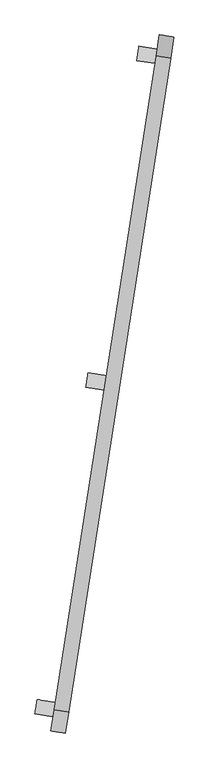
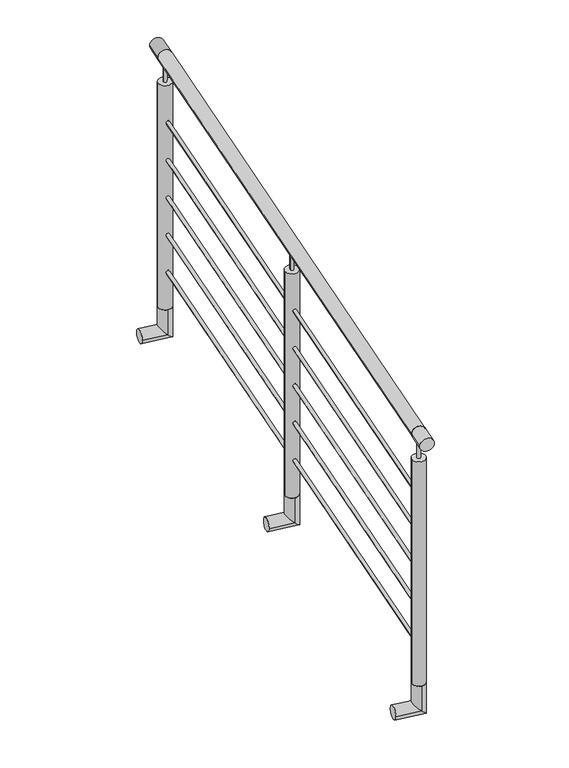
"""IFC4 building model written with IfcOpenShell, lengths in millimetres: railing geometry, Barandal acero inox - sobre ventana."""

from ifc_helpers import new_model, si_unit, point, frame, frame_2d, origin, origin_2d, place, context, project, spatial, circle_curve, ellipse_curve, trimmed, segment, composite_curve, outline, extrude, source, transform, mapped, element, save
from ifc_brep_helpers import plane_surface, cylinder_surface, advanced_brep


def railing_13f0ed30(model_context):
    return source(origin(), model_context, "Body", "SolidModel", [
        extrude(outline(composite_curve([segment(trimmed(circle_curve(origin_2d(), 25.4), [point((25.4, 0.0))], [point((-25.4, 0.0))], False, "CARTESIAN"), True, "CONTINUOUS"), segment(trimmed(circle_curve(origin_2d(), 25.4), [point((-25.4, 0.0))], [point((25.4, 0.0))], False, "CARTESIAN"), True, "CONTINUOUS")], self_intersect=False)), frame((-24983.9778211, -81062.9582667, 13800.0), z_axis=(0.1540098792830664, 0.9880693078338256, 0.0), x_axis=(0.9880693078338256, -0.1540098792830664, 0.0)), (0.0, 0.0, 1.0), 2310.0000422),
        extrude(outline(composite_curve([segment(trimmed(circle_curve(origin_2d(), 6.35), [point((6.35, 0.0))], [point((-6.35, 0.0))], False, "CARTESIAN"), True, "CONTINUOUS"), segment(trimmed(circle_curve(origin_2d(), 6.35), [point((-6.35, 0.0))], [point((6.35, 0.0))], False, "CARTESIAN"), True, "CONTINUOUS")], self_intersect=False)), frame((-24983.9778211, -81062.9582667, 13550.0), z_axis=(0.1540098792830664, 0.9880693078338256, 0.0), x_axis=(0.9880693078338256, -0.1540098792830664, 0.0)), (0.0, 0.0, 1.0), 2310.0000422),
        extrude(outline(composite_curve([segment(trimmed(circle_curve(origin_2d(), 6.35), [point((6.35, 0.0))], [point((-6.35, 0.0))], False, "CARTESIAN"), True, "CONTINUOUS"), segment(trimmed(circle_curve(origin_2d(), 6.35), [point((-6.35, 0.0))], [point((6.35, 0.0))], False, "CARTESIAN"), True, "CONTINUOUS")], self_intersect=False)), frame((-24983.9778211, -81062.9582667, 13400.0), z_axis=(0.1540098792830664, 0.9880693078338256, 0.0), x_axis=(0.9880693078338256, -0.1540098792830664, 0.0)), (0.0, 0.0, 1.0), 2310.0000422),
        extrude(outline(composite_curve([segment(trimmed(circle_curve(origin_2d(), 6.35), [point((6.35, 0.0))], [point((-6.35, 0.0))], False, "CARTESIAN"), True, "CONTINUOUS"), segment(trimmed(circle_curve(origin_2d(), 6.35), [point((-6.35, 0.0))], [point((6.35, 0.0))], False, "CARTESIAN"), True, "CONTINUOUS")], self_intersect=False)), frame((-24983.9778211, -81062.9582667, 13250.0), z_axis=(0.1540098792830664, 0.9880693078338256, 0.0), x_axis=(0.9880693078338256, -0.1540098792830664, 0.0)), (0.0, 0.0, 1.0), 2310.0000422),
        extrude(outline(composite_curve([segment(trimmed(circle_curve(origin_2d(), 6.35), [point((6.35, 0.0))], [point((-6.35, 0.0))], False, "CARTESIAN"), True, "CONTINUOUS"), segment(trimmed(circle_curve(origin_2d(), 6.35), [point((-6.35, 0.0))], [point((6.35, 0.0))], False, "CARTESIAN"), True, "CONTINUOUS")], self_intersect=False)), frame((-24983.9778211, -81062.9582667, 13100.0), z_axis=(0.1540098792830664, 0.9880693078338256, 0.0), x_axis=(0.9880693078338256, -0.1540098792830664, 0.0)), (0.0, 0.0, 1.0), 2310.0000422),
        extrude(outline(composite_curve([segment(trimmed(circle_curve(origin_2d(), 6.35), [point((6.35, 0.0))], [point((-6.35, 0.0))], False, "CARTESIAN"), True, "CONTINUOUS"), segment(trimmed(circle_curve(origin_2d(), 6.35), [point((-6.35, 0.0))], [point((6.35, 0.0))], False, "CARTESIAN"), True, "CONTINUOUS")], self_intersect=False)), frame((-24983.9778211, -81062.9582667, 12950.0), z_axis=(0.1540098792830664, 0.9880693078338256, 0.0), x_axis=(0.9880693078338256, -0.1540098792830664, 0.0)), (0.0, 0.0, 1.0), 2310.0000422),
        advanced_brep(
        [(-24810.0082582, -79946.8351557, 12800.0), (-24802.1845564, -79896.6412348, 12800.0), (-24802.1845564, -79896.6412348, 12700.0), (-24810.0082582, -79946.8351557, 12700.0), (-24898.9344959, -79932.9742665, 12700.0), (-24891.1107941, -79882.7803457, 12700.0)],
        [
            (0, 1, circle_curve(frame((-24806.0964073, -79921.7381953, 12800.0), z_axis=(0.0, 0.0, 1.0), x_axis=(0.1540098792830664, 0.9880693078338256, 0.0)), 25.4)),
            (1, 0, circle_curve(frame((-24806.0964073, -79921.7381953, 12800.0), z_axis=(0.0, 0.0, 1.0), x_axis=(0.1540098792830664, 0.9880693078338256, 0.0)), 25.4)),
            (1, 2),
            (2, 3, ellipse_curve(frame((-24806.0964073, -79921.7381953, 12700.0), z_axis=(0.6986705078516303, -0.10890143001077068, 0.7071067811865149), x_axis=(-0.6986705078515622, 0.10890143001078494, 0.7071067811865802)), 35.9210245, 25.4)),
            (3, 0),
            (3, 2, ellipse_curve(frame((-24806.0964073, -79921.7381953, 12700.0), z_axis=(0.6986705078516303, -0.10890143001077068, 0.7071067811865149), x_axis=(-0.6986705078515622, 0.10890143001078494, 0.7071067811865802)), 35.9210245, 25.4)),
            (4, 5, circle_curve(frame((-24895.022645, -79907.8773061, 12700.0), z_axis=(-0.9880693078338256, 0.1540098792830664, 0.0), x_axis=(0.1540098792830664, 0.9880693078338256, 0.0)), 25.4)),
            (5, 4, circle_curve(frame((-24895.022645, -79907.8773061, 12700.0), z_axis=(-0.9880693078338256, 0.1540098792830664, 0.0), x_axis=(0.1540098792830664, 0.9880693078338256, 0.0)), 25.4)),
            (2, 5),
            (4, 3),
        ],
        [
            plane_surface(frame((-24806.0964073, -79921.7381953, 12800.0), z_axis=(0.0, 0.0, 1.0), x_axis=(0.1540098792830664, 0.9880693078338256, 0.0))),
            cylinder_surface(frame((-24806.0964073, -79921.7381953, 12800.0), z_axis=(0.0, 0.0, 1.0), x_axis=(0.1540098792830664, 0.9880693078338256, 0.0)), 25.4),
            plane_surface(frame((-24895.022645, -79907.8773061, 12700.0), z_axis=(-0.9880693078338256, 0.1540098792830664, 0.0), x_axis=(0.1540098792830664, 0.9880693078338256, 0.0))),
            cylinder_surface(frame((-24806.0964073, -79921.7381953, 12700.0), z_axis=(0.9880693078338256, -0.1540098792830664, 0.0), x_axis=(0.1540098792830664, 0.9880693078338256, 0.0)), 25.4),
        ],
        [
            (0, [[1, 2]]),
            (1, [[3, 4, 5, -2]]),
            (1, [[-5, 6, -3, -1]]),
            (2, [[7, 8]]),
            (3, [[9, -7, 10, -4]]),
            (3, [[-10, -8, -9, -6]]),
        ],
    ),
        extrude(outline(composite_curve([segment(trimmed(circle_curve(frame_2d((-24806.0964073, -79921.7381953)), 6.35), [point((-24812.3706474, -79920.7602325))], [point((-24799.8221672, -79922.716158))], False, "CARTESIAN"), True, "CONTINUOUS"), segment(trimmed(circle_curve(frame_2d((-24806.0964073, -79921.7381953)), 6.35), [point((-24799.8221672, -79922.716158))], [point((-24812.3706474, -79920.7602325))], False, "CARTESIAN"), True, "CONTINUOUS")], self_intersect=False)), frame((0.0, 0.0, 13699.6), z_axis=(0.0, 0.0, 1.0), x_axis=(1.0, 0.0, 0.0)), (0.0, 0.0, 1.0), 75.0),
        extrude(outline(composite_curve([segment(trimmed(circle_curve(frame_2d((-24806.0964073, -79921.7381953)), 25.4), [point((-24831.1933677, -79917.8263443))], [point((-24780.9994469, -79925.6500462))], False, "CARTESIAN"), True, "CONTINUOUS"), segment(trimmed(circle_curve(frame_2d((-24806.0964073, -79921.7381953)), 25.4), [point((-24780.9994469, -79925.6500462))], [point((-24831.1933677, -79917.8263443))], False, "CARTESIAN"), True, "CONTINUOUS")], self_intersect=False)), frame((0.0, 0.0, 12800.0), z_axis=(0.0, 0.0, 1.0), x_axis=(1.0, 0.0, 0.0)), (0.0, 0.0, 1.0), 899.6),
        advanced_brep(
        [(-24632.1268444, -78805.6150843, 12800.0), (-24624.3031425, -78755.4211634, 12800.0), (-24624.3031425, -78755.4211634, 12700.0), (-24632.1268444, -78805.6150843, 12700.0), (-24721.0530821, -78791.7541952, 12700.0), (-24713.2293802, -78741.5602743, 12700.0)],
        [
            (0, 1, circle_curve(frame((-24628.2149935, -78780.5181239, 12800.0), z_axis=(0.0, 0.0, 1.0), x_axis=(0.1540098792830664, 0.9880693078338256, 0.0)), 25.4)),
            (1, 0, circle_curve(frame((-24628.2149935, -78780.5181239, 12800.0), z_axis=(0.0, 0.0, 1.0), x_axis=(0.1540098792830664, 0.9880693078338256, 0.0)), 25.4)),
            (1, 2),
            (2, 3, ellipse_curve(frame((-24628.2149935, -78780.5181239, 12700.0), z_axis=(0.6986705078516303, -0.10890143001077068, 0.7071067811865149), x_axis=(-0.6986705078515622, 0.10890143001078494, 0.7071067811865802)), 35.9210245, 25.4)),
            (3, 0),
            (3, 2, ellipse_curve(frame((-24628.2149935, -78780.5181239, 12700.0), z_axis=(0.6986705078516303, -0.10890143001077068, 0.7071067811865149), x_axis=(-0.6986705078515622, 0.10890143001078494, 0.7071067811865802)), 35.9210245, 25.4)),
            (4, 5, circle_curve(frame((-24717.1412312, -78766.6572347, 12700.0), z_axis=(-0.9880693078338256, 0.1540098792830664, 0.0), x_axis=(0.1540098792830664, 0.9880693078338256, 0.0)), 25.4)),
            (5, 4, circle_curve(frame((-24717.1412312, -78766.6572347, 12700.0), z_axis=(-0.9880693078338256, 0.1540098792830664, 0.0), x_axis=(0.1540098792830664, 0.9880693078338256, 0.0)), 25.4)),
            (2, 5),
            (4, 3),
        ],
        [
            plane_surface(frame((-24628.2149935, -78780.5181239, 12800.0), z_axis=(0.0, 0.0, 1.0), x_axis=(0.1540098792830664, 0.9880693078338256, 0.0))),
            cylinder_surface(frame((-24628.2149935, -78780.5181239, 12800.0), z_axis=(0.0, 0.0, 1.0), x_axis=(0.1540098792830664, 0.9880693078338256, 0.0)), 25.4),
            plane_surface(frame((-24717.1412312, -78766.6572347, 12700.0), z_axis=(-0.9880693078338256, 0.1540098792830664, 0.0), x_axis=(0.1540098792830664, 0.9880693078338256, 0.0))),
            cylinder_surface(frame((-24628.2149935, -78780.5181239, 12700.0), z_axis=(0.9880693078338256, -0.1540098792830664, 0.0), x_axis=(0.1540098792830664, 0.9880693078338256, 0.0)), 25.4),
        ],
        [
            (0, [[1, 2]]),
            (1, [[3, 4, 5, -2]]),
            (1, [[-5, 6, -3, -1]]),
            (2, [[7, 8]]),
            (3, [[9, -7, 10, -4]]),
            (3, [[-10, -8, -9, -6]]),
        ],
    ),
        extrude(outline(composite_curve([segment(trimmed(circle_curve(frame_2d((0.0, 25.4000001)), 25.4), [point((0.0, 50.8000001))], [point((0.0, 0.0))], False, "CARTESIAN"), True, "CONTINUOUS"), segment(trimmed(circle_curve(frame_2d((0.0, 25.4000001)), 25.4), [point((0.0, 0.0))], [point((0.0, 50.8000001))], False, "CARTESIAN"), True, "CONTINUOUS")], self_intersect=False)), frame((-24603.118033, -78784.4299748, 13800.0), z_axis=(0.1540098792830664, 0.9880693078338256, 0.0), x_axis=(0.0, 0.0, -1.0)), (0.0, 0.0, 1.0), 75.0),
        extrude(outline(composite_curve([segment(trimmed(circle_curve(frame_2d((-24628.2149935, -78780.5181239)), 6.35), [point((-24634.4892336, -78779.5401611))], [point((-24621.9407534, -78781.4960866))], False, "CARTESIAN"), True, "CONTINUOUS"), segment(trimmed(circle_curve(frame_2d((-24628.2149935, -78780.5181239)), 6.35), [point((-24621.9407534, -78781.4960866))], [point((-24634.4892336, -78779.5401611))], False, "CARTESIAN"), True, "CONTINUOUS")], self_intersect=False)), frame((0.0, 0.0, 13699.6), z_axis=(0.0, 0.0, 1.0), x_axis=(1.0, 0.0, 0.0)), (0.0, 0.0, 1.0), 75.0),
        extrude(outline(composite_curve([segment(trimmed(circle_curve(frame_2d((-24628.2149935, -78780.5181239)), 25.4), [point((-24653.3119539, -78776.6062729))], [point((-24603.118033, -78784.4299748))], False, "CARTESIAN"), True, "CONTINUOUS"), segment(trimmed(circle_curve(frame_2d((-24628.2149935, -78780.5181239)), 25.4), [point((-24603.118033, -78784.4299748))], [point((-24653.3119539, -78776.6062729))], False, "CARTESIAN"), True, "CONTINUOUS")], self_intersect=False)), frame((0.0, 0.0, 12800.0), z_axis=(0.0, 0.0, 1.0), x_axis=(1.0, 0.0, 0.0)), (0.0, 0.0, 1.0), 899.6),
        advanced_brep(
        [(-24987.889672, -81088.0552271, 12800.0), (-24980.0659702, -81037.8613062, 12800.0), (-24980.0659702, -81037.8613062, 12700.0), (-24987.889672, -81088.0552271, 12700.0), (-25076.8159098, -81074.1943379, 12700.0), (-25068.9922079, -81024.0004171, 12700.0)],
        [
            (0, 1, circle_curve(frame((-24983.9778211, -81062.9582667, 12800.0), z_axis=(0.0, 0.0, 1.0), x_axis=(0.1540098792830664, 0.9880693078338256, 0.0)), 25.4)),
            (1, 0, circle_curve(frame((-24983.9778211, -81062.9582667, 12800.0), z_axis=(0.0, 0.0, 1.0), x_axis=(0.1540098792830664, 0.9880693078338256, 0.0)), 25.4)),
            (1, 2),
            (2, 3, ellipse_curve(frame((-24983.9778211, -81062.9582667, 12700.0), z_axis=(0.6986705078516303, -0.10890143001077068, 0.7071067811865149), x_axis=(-0.6986705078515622, 0.10890143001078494, 0.7071067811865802)), 35.9210245, 25.4)),
            (3, 0),
            (3, 2, ellipse_curve(frame((-24983.9778211, -81062.9582667, 12700.0), z_axis=(0.6986705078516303, -0.10890143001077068, 0.7071067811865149), x_axis=(-0.6986705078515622, 0.10890143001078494, 0.7071067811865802)), 35.9210245, 25.4)),
            (4, 5, circle_curve(frame((-25072.9040588, -81049.0973775, 12700.0), z_axis=(-0.9880693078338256, 0.1540098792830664, 0.0), x_axis=(0.1540098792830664, 0.9880693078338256, 0.0)), 25.4)),
            (5, 4, circle_curve(frame((-25072.9040588, -81049.0973775, 12700.0), z_axis=(-0.9880693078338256, 0.1540098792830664, 0.0), x_axis=(0.1540098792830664, 0.9880693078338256, 0.0)), 25.4)),
            (2, 5),
            (4, 3),
        ],
        [
            plane_surface(frame((-24983.9778211, -81062.9582667, 12800.0), z_axis=(0.0, 0.0, 1.0), x_axis=(0.1540098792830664, 0.9880693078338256, 0.0))),
            cylinder_surface(frame((-24983.9778211, -81062.9582667, 12800.0), z_axis=(0.0, 0.0, 1.0), x_axis=(0.1540098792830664, 0.9880693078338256, 0.0)), 25.4),
            plane_surface(frame((-25072.9040588, -81049.0973775, 12700.0), z_axis=(-0.9880693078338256, 0.1540098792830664, 0.0), x_axis=(0.1540098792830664, 0.9880693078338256, 0.0))),
            cylinder_surface(frame((-24983.9778211, -81062.9582667, 12700.0), z_axis=(0.9880693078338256, -0.1540098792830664, 0.0), x_axis=(0.1540098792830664, 0.9880693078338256, 0.0)), 25.4),
        ],
        [
            (0, [[1, 2]]),
            (1, [[3, 4, 5, -2]]),
            (1, [[-5, 6, -3, -1]]),
            (2, [[7, 8]]),
            (3, [[9, -7, 10, -4]]),
            (3, [[-10, -8, -9, -6]]),
        ],
    ),
        extrude(outline(composite_curve([segment(trimmed(circle_curve(frame_2d((0.0, 25.4000001)), 25.4), [point((0.0, 50.8000001))], [point((0.0, 0.0))], False, "CARTESIAN"), True, "CONTINUOUS"), segment(trimmed(circle_curve(frame_2d((0.0, 25.4000001)), 25.4), [point((0.0, 0.0))], [point((0.0, 50.8000001))], False, "CARTESIAN"), True, "CONTINUOUS")], self_intersect=False)), frame((-24970.4316016, -81140.9753157, 13800.0), z_axis=(0.1540098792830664, 0.9880693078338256, 0.0), x_axis=(0.0, 0.0, -1.0)), (0.0, 0.0, 1.0), 75.0),
        extrude(outline(composite_curve([segment(trimmed(circle_curve(frame_2d((-24983.9778211, -81062.9582667)), 6.35), [point((-24990.2520612, -81061.9803039))], [point((-24977.703581, -81063.9362294))], False, "CARTESIAN"), True, "CONTINUOUS"), segment(trimmed(circle_curve(frame_2d((-24983.9778211, -81062.9582667)), 6.35), [point((-24977.703581, -81063.9362294))], [point((-24990.2520612, -81061.9803039))], False, "CARTESIAN"), True, "CONTINUOUS")], self_intersect=False)), frame((0.0, 0.0, 13699.6), z_axis=(0.0, 0.0, 1.0), x_axis=(1.0, 0.0, 0.0)), (0.0, 0.0, 1.0), 75.0),
        extrude(outline(composite_curve([segment(trimmed(circle_curve(frame_2d((-24983.9778211, -81062.9582667)), 25.4), [point((-25009.0747815, -81059.0464157))], [point((-24958.8808607, -81066.8701176))], False, "CARTESIAN"), True, "CONTINUOUS"), segment(trimmed(circle_curve(frame_2d((-24983.9778211, -81062.9582667)), 25.4), [point((-24958.8808607, -81066.8701176))], [point((-25009.0747815, -81059.0464157))], False, "CARTESIAN"), True, "CONTINUOUS")], self_intersect=False)), frame((0.0, 0.0, 12800.0), z_axis=(0.0, 0.0, 1.0), x_axis=(1.0, 0.0, 0.0)), (0.0, 0.0, 1.0), 899.6),
    ])


if __name__ == "__main__":
    model = new_model("IFC4")
    model_context = context("Model", 3, world=origin())
    ifc_project = project(units=[si_unit("LENGTHUNIT", "METRE", prefix="MILLI")], contexts=[model_context])
    site = spatial("IfcSite", under=ifc_project)
    building = spatial("IfcBuilding", under=site)
    placement = place(None, origin())
    railing_shape = railing_13f0ed30(model_context)
    element("IfcRailing", 1, ObjectType="Barandal acero inox - sobre ventana", at=placement, inside=building, context=model_context, shape_type="MappedRepresentation", body=[
        mapped(railing_shape, transform((0.0, 0.0, 0.0), x_axis=(1.0, 0.0, 0.0), y_axis=(0.0, 1.0, 0.0), z_axis=(0.0, 0.0, 1.0))),
    ])
    save(model, "model.ifc")
